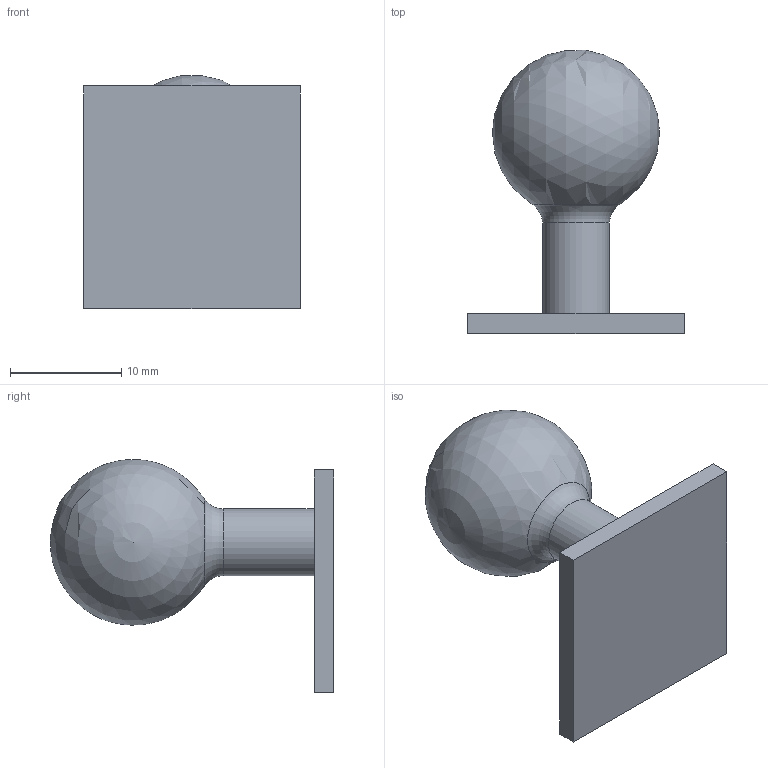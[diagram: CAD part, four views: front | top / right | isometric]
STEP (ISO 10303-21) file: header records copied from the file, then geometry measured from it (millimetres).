
FILE_DESCRIPTION (( 'STEP AP214' ), '1' );
FILE_NAME ('P001-B102_BallMount_Rev2D-1.STEP', '2026-04-20T05:40:31', ( '' ), ( '' ), 'SwSTEP 2.0', 'SolidWorks 2024', '' );
FILE_SCHEMA (( 'AUTOMOTIVE_DESIGN' ));
Length unit declared in the file: millimetre
Products named in the file (1): P001-B102_BallMount_Rev2D-1
Bounding box: 19.5 x 25.44 x 20.94 mm (x, y, z)
Volume: 2710.3 mm3; surface area: 1740.5 mm2
Topology: 1 solids, 1 shells, 9 faces, 20 edges, 13 vertices
Faces by surface type: plane 6, sphere 1, cylinder 1, torus 1
Full cylindrical faces by diameter (mm): 6 x1
Entity records: 239 total; most frequent: DIRECTION 38, CARTESIAN_POINT 36, ORIENTED_EDGE 30, EDGE_CURVE 15, AXIS2_PLACEMENT_3D 13, VECTOR 12, LINE 12, EDGE_LOOP 12
